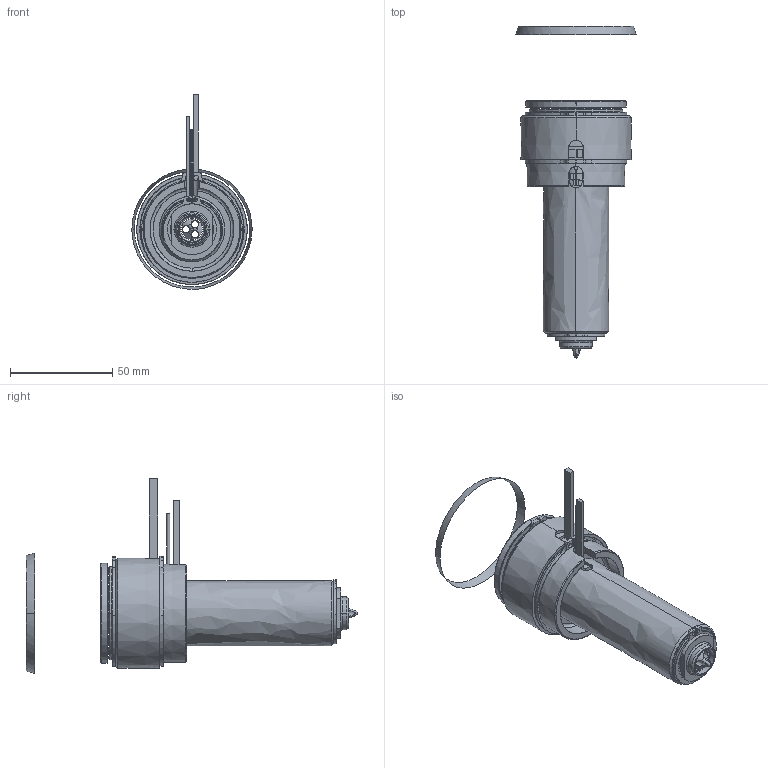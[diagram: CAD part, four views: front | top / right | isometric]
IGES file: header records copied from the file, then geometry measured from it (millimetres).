
Start section: SolidWorks IGES file using analytic representation for surfaces
Global section: file name: C:\Documents and Settings\ws-20\Desktop\TEM\UGEP5502-S-A-1 [Øf-1.18 ØC-12].IGS; native system: SolidWorks 2012; preprocessor: SolidWorks 2012; author: ws-20; date: 120427.080043; units: millimetre
Bounding box: 58.79 x 162.24 x 95.19 mm (x, y, z)
Surface area: 59199.2 mm2 (no closed solid volume)
Topology: 0 solids, 0 shells, 179 faces, 3613 edges, 3613 vertices
Faces by surface type: revolution 115, bspline 64
